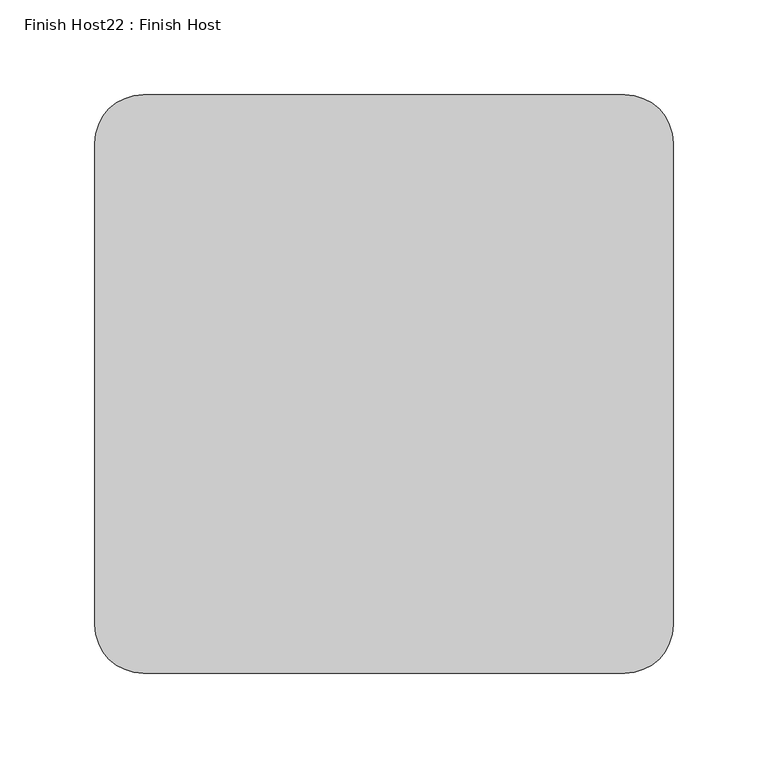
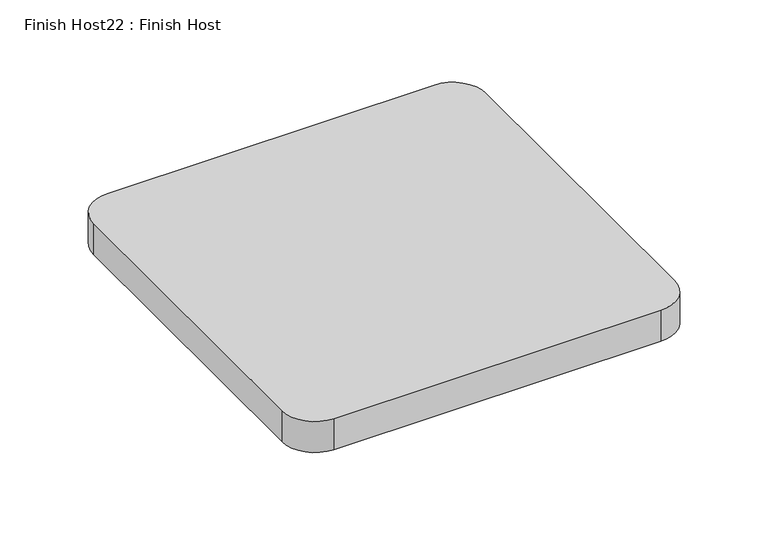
"""IFC4 building model written with IfcOpenShell, lengths in millimetres: proxy geometry, Finish Host22 : Finish Host."""

import ifcopenshell
import ifcopenshell.guid

model = None  # the IFC model being written
_history = None  # IfcOwnerHistory: only IFC2X3 demands one
_inside = {}  # id of a spatial element -> (the spatial element, [elements in it])
_under = {}  # id of a project, library or spatial element -> (it, [spatial elements below it])
_declared = {}  # id of a project -> (the project, [libraries it declares])
_typed = {}  # id of a type object -> (the type object, [elements of that type])
_made_of = {}  # id of a material, layer set ... -> (it, [elements and type objects made of it])


def new_model(schema):
    """Start an empty IFC model of exactly this schema.

    Asked for "IFC4X3", IfcOpenShell would pick the latest addendum, in which some entities
    have other attributes; the version numbers below select the first issue.
    IFC2X3 requires an IfcOwnerHistory on every rooted entity: one is made here for all.
    """
    global model, _history
    if schema == "IFC4X3":
        model = ifcopenshell.file(schema_version=(4, 3, 0, 0))
    else:
        model = ifcopenshell.file(schema=schema)
    _inside.clear()
    _under.clear()
    _declared.clear()
    _typed.clear()
    _made_of.clear()
    _history = None
    if model.schema == "IFC2X3":
        org = make("IfcOrganization", Name="unknown")
        user = make(
            "IfcPersonAndOrganization",
            ThePerson=make("IfcPerson", FamilyName="unknown"),
            TheOrganization=org,
        )
        app = make(
            "IfcApplication",
            ApplicationDeveloper=org,
            Version="unknown",
            ApplicationFullName="unknown",
            ApplicationIdentifier="unknown",
        )
        _history = make(
            "IfcOwnerHistory",
            OwningUser=user,
            OwningApplication=app,
            ChangeAction="ADDED",
            CreationDate=0,
        )
    return model


def make(cls, **values):
    """One entity of the class cls with the attributes given. An attribute that is None is left unset."""
    return model.create_entity(
        cls, **{name: value for name, value in values.items() if value is not None}
    )


def rooted(cls, **values):
    """An entity with a GlobalId (a new one), such as an element, a storey or a relation."""
    return make(cls, GlobalId=ifcopenshell.guid.new(), OwnerHistory=_history, **values)


def si_unit(unit_type, name, prefix=None):
    """IfcSIUnit, for example si_unit("LENGTHUNIT", "METRE", prefix="MILLI")."""
    return make("IfcSIUnit", UnitType=unit_type, Prefix=prefix, Name=name)


def assignment(units):
    """IfcUnitAssignment: the units of a project."""
    return None if units is None else make("IfcUnitAssignment", Units=units)


def point(xyz):
    """IfcCartesianPoint."""
    return None if xyz is None else make("IfcCartesianPoint", Coordinates=xyz)


def direction(xyz):
    """IfcDirection."""
    return None if xyz is None else make("IfcDirection", DirectionRatios=xyz)


def frame(location, z_axis=None, x_axis=None):
    """IfcAxis2Placement3D, a coordinate frame: its origin and axes. An axis left out is left unset."""
    return make(
        "IfcAxis2Placement3D",
        Location=point(location),
        Axis=direction(z_axis),
        RefDirection=direction(x_axis),
    )


def frame_2d(location, x_axis=None):
    """IfcAxis2Placement2D, a coordinate frame in the plane: its origin and x axis."""
    return make(
        "IfcAxis2Placement2D", Location=point(location), RefDirection=direction(x_axis)
    )


def origin():
    """The frame at (0, 0, 0) with its axes left unset."""
    return frame((0.0, 0.0, 0.0))


def origin_with_axes():
    """The frame at (0, 0, 0) with the z axis (0, 0, 1) and the x axis (1, 0, 0) written out."""
    return frame((0.0, 0.0, 0.0), z_axis=(0.0, 0.0, 1.0), x_axis=(1.0, 0.0, 0.0))


def place(relative_to, where):
    """IfcLocalPlacement: puts the frame where relative to a parent placement (None: the world)."""
    return make(
        "IfcLocalPlacement", PlacementRelTo=relative_to, RelativePlacement=where
    )


def context(
    kind, dimensions, precision=None, world=None, true_north=None, identifier=None
):
    """IfcGeometricRepresentationContext, for example the 3D "Model" context."""
    return make(
        "IfcGeometricRepresentationContext",
        ContextIdentifier=identifier,
        ContextType=kind,
        CoordinateSpaceDimension=dimensions,
        Precision=precision,
        WorldCoordinateSystem=world,
        TrueNorth=true_north,
    )


def project(units=None, contexts=None):
    """IfcProject with its units and contexts."""
    return rooted(
        "IfcProject",
        Name="project",
        RepresentationContexts=contexts,
        UnitsInContext=assignment(units),
    )


def spatial(cls, under=None, at=None, **own):
    """A site, building, storey or space (cls), placed at a placement, below another one or the project."""
    s = rooted(cls, ObjectPlacement=at, **own)
    if under is not None:
        _under.setdefault(under.id(), (under, []))[1].append(s)
    return s


def polyline(points):
    """IfcPolyline through the points."""
    return make("IfcPolyline", Points=[point(p) for p in points])


def circle_curve(where, radius):
    """IfcCircle in the frame where."""
    return make("IfcCircle", Position=where, Radius=radius)


def trimmed(basis, trim1, trim2, sense, master):
    """IfcTrimmedCurve: the piece of a basis curve between two trims."""
    return make(
        "IfcTrimmedCurve",
        BasisCurve=basis,
        Trim1=trim1,
        Trim2=trim2,
        SenseAgreement=sense,
        MasterRepresentation=master,
    )


def segment(curve, same_sense, transition):
    """IfcCompositeCurveSegment."""
    return make(
        "IfcCompositeCurveSegment",
        Transition=transition,
        SameSense=same_sense,
        ParentCurve=curve,
    )


def composite_curve(segments, self_intersect=None):
    """IfcCompositeCurve: segments joined end to end."""
    return make("IfcCompositeCurve", Segments=segments, SelfIntersect=self_intersect)


def outline(outer, holes=None, kind="AREA"):
    """IfcArbitraryClosedProfileDef: a profile drawn as a closed curve; with holes, ...WithVoids."""
    if holes is None:
        return make("IfcArbitraryClosedProfileDef", ProfileType=kind, OuterCurve=outer)
    return make(
        "IfcArbitraryProfileDefWithVoids",
        ProfileType=kind,
        OuterCurve=outer,
        InnerCurves=holes,
    )


def extrude(swept, where, along, depth):
    """IfcExtrudedAreaSolid: the profile swept, set in the frame where, extruded along a direction by depth."""
    return make(
        "IfcExtrudedAreaSolid",
        SweptArea=swept,
        Position=where,
        ExtrudedDirection=direction(along),
        Depth=depth,
    )


def shape(context_of_items, identifier, shape_type, items):
    """IfcShapeRepresentation: the items that make up one representation, for example the "Body"."""
    return make(
        "IfcShapeRepresentation",
        ContextOfItems=context_of_items,
        RepresentationIdentifier=identifier,
        RepresentationType=shape_type,
        Items=items,
    )


def source(mapping_origin, context_of_items, identifier, shape_type, items):
    """IfcRepresentationMap: a shape defined once, which mapped items show again and again."""
    return make(
        "IfcRepresentationMap",
        MappingOrigin=mapping_origin,
        MappedRepresentation=shape(context_of_items, identifier, shape_type, items),
    )


def transform(
    local_origin,
    x_axis=None,
    y_axis=None,
    z_axis=None,
    scale=None,
    scale2=None,
    scale3=None,
    uniform=True,
):
    """IfcCartesianTransformationOperator3D, or its non-uniform kind. x_axis, y_axis, z_axis: its Axis1, 2, 3."""
    if uniform:
        return make(
            "IfcCartesianTransformationOperator3D",
            Axis1=direction(x_axis),
            Axis2=direction(y_axis),
            LocalOrigin=point(local_origin),
            Scale=scale,
            Axis3=direction(z_axis),
        )
    return make(
        "IfcCartesianTransformationOperator3DnonUniform",
        Axis1=direction(x_axis),
        Axis2=direction(y_axis),
        LocalOrigin=point(local_origin),
        Scale=scale,
        Axis3=direction(z_axis),
        Scale2=scale2,
        Scale3=scale3,
    )


def mapped(mapping_source, mapping_target):
    """IfcMappedItem: shows the shape of a source again, moved by a transform."""
    return make(
        "IfcMappedItem", MappingSource=mapping_source, MappingTarget=mapping_target
    )


def made_of(thing, what):
    """Note that an element or type object is made of a material, layer set ...; save() writes the relation."""
    if what is not None:
        _made_of.setdefault(what.id(), (what, []))[1].append(thing)
    return thing


def element(
    cls,
    number,
    at=None,
    inside=None,
    cuts=None,
    type_object=None,
    material=None,
    context=None,
    identifier="Body",
    shape_type=None,
    held_by="IfcProductDefinitionShape",
    body=None,
    shapes=None,
    **own,
):
    """One element of the class cls, such as IfcWall. Its Tag is "e" and its number.

    at: its placement. inside: the storey or other place that contains it. cuts: it is an
    opening in that element (IfcRelVoidsElement). A single representation is given by context,
    identifier, shape_type and body (its items); several are given by shapes. held_by: the class
    of the entity that holds the representations. save() writes the other relations.
    """
    e = rooted(cls, Tag="e%d" % number, ObjectPlacement=at, **own)
    if body is not None:
        shapes = [shape(context, identifier, shape_type, body)]
    if shapes is not None:
        e.Representation = make(held_by, Representations=shapes)
    if inside is not None:
        _inside.setdefault(inside.id(), (inside, []))[1].append(e)
    if cuts is not None:
        rooted(
            "IfcRelVoidsElement", RelatingBuildingElement=cuts, RelatedOpeningElement=e
        )
    if type_object is not None:
        _typed.setdefault(type_object.id(), (type_object, []))[1].append(e)
    return made_of(e, material)


def aggregate(whole, parts):
    """IfcRelAggregates: a whole, such as a stair, and the parts it consists of."""
    return rooted("IfcRelAggregates", RelatingObject=whole, RelatedObjects=parts)


def save(model, path):
    """Write the relations noted so far, then the file.

    IfcRelAggregates (storeys below a building ...), IfcRelContainedInSpatialStructure (elements
    in a storey), IfcRelDefinesByType, IfcRelAssociatesMaterial and IfcRelDeclares: one each for
    every whole, place, type object, material and project.
    """
    for whole, parts in _under.values():
        aggregate(whole, parts)
    for where, things in _inside.values():
        rooted(
            "IfcRelContainedInSpatialStructure",
            RelatedElements=things,
            RelatingStructure=where,
        )
    for kind, things in _typed.values():
        rooted("IfcRelDefinesByType", RelatedObjects=things, RelatingType=kind)
    for what, things in _made_of.values():
        rooted("IfcRelAssociatesMaterial", RelatedObjects=things, RelatingMaterial=what)
    for by, libraries in _declared.values():
        rooted("IfcRelDeclares", RelatingContext=by, RelatedDefinitions=libraries)
    model.write(path)


def finish_host22_finish_host_b5e77172(model_context):
    return source(origin(), model_context, "Body", "SweptSolid", [
        extrude(outline(composite_curve([segment(polyline([(1368.8934426, 1867.2122951), (1368.8934426, 2121.2122951)]), True, "CONTINUOUS"), segment(trimmed(circle_curve(frame_2d((1394.2934426, 2121.2122951)), 25.4), [point((1368.8934426, 2121.2122951))], [point((1394.2934426, 2146.6122951))], False, "CARTESIAN"), True, "CONTINUOUS"), segment(polyline([(1394.2934426, 2146.6122951), (1648.2934426, 2146.6122951)]), True, "CONTINUOUS"), segment(trimmed(circle_curve(frame_2d((1648.2934426, 2121.2122951)), 25.4), [point((1648.2934426, 2146.6122951))], [point((1673.6934426, 2121.2122951))], False, "CARTESIAN"), True, "CONTINUOUS"), segment(polyline([(1673.6934426, 2121.2122951), (1673.6934426, 1867.2122951)]), True, "CONTINUOUS"), segment(trimmed(circle_curve(frame_2d((1648.2934426, 1867.2122951)), 25.4), [point((1673.6934426, 1867.2122951))], [point((1648.2934426, 1841.8122951))], False, "CARTESIAN"), True, "CONTINUOUS"), segment(polyline([(1648.2934426, 1841.8122951), (1394.2934426, 1841.8122951)]), True, "CONTINUOUS"), segment(trimmed(circle_curve(frame_2d((1394.2934426, 1867.2122951)), 25.4), [point((1394.2934426, 1841.8122951))], [point((1368.8934426, 1867.2122951))], False, "CARTESIAN"), True, "CONTINUOUS")], self_intersect=False)), origin_with_axes(), (0.0, 0.0, 1.0), 25.4),
    ])


if __name__ == "__main__":
    model = new_model("IFC4")
    model_context = context("Model", 3, world=origin())
    ifc_project = project(units=[si_unit("LENGTHUNIT", "METRE", prefix="MILLI")], contexts=[model_context])
    site = spatial("IfcSite", under=ifc_project)
    building = spatial("IfcBuilding", under=site)
    placement = place(None, origin())
    finish_host22_finish_host_shape = finish_host22_finish_host_b5e77172(model_context)
    element("IfcBuildingElementProxy", 1, Name="Finish Host22 : Finish Host", ObjectType="Finish Host22 : Finish Host", at=placement, inside=building, context=model_context, shape_type="MappedRepresentation", body=[
        mapped(finish_host22_finish_host_shape, transform((0.0, 0.0, 0.0), x_axis=(1.0, 0.0, 0.0), y_axis=(0.0, 1.0, 0.0), z_axis=(0.0, 0.0, 1.0))),
    ])
    save(model, "model.ifc")
